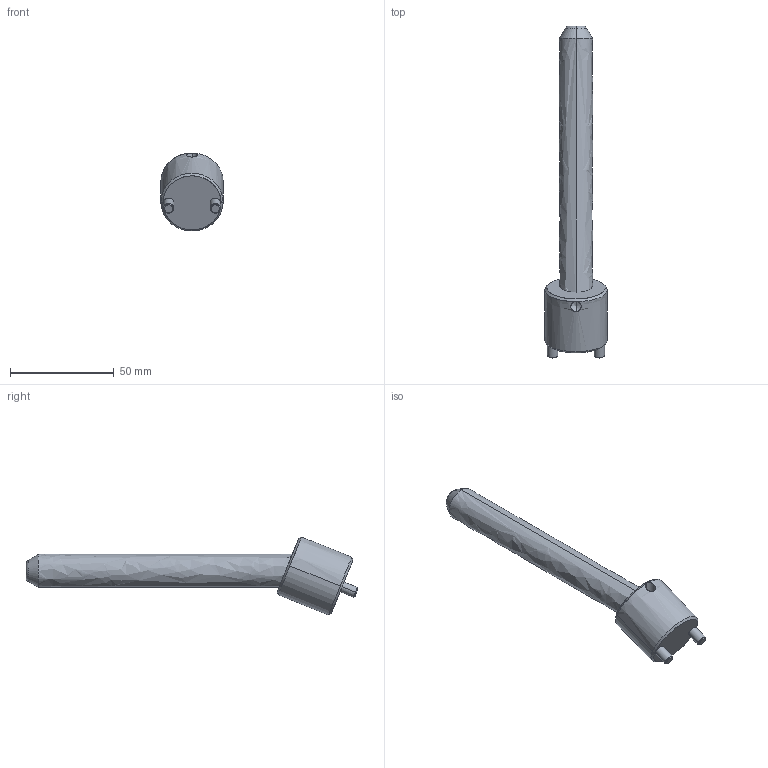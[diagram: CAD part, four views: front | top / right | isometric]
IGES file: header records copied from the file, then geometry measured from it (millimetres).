
Start section: START RECORD GO HERE.
Global section: file name: CI2216125.igs; native system: DASSAULT SYSTEMES CATIA V5 R20 - www.3ds.com; preprocessor: CATIA Version 5 Release 20 ; author: r.borello; organization: CFTORINO; date: 20190624.084834; units: millimetre
Bounding box: 30 x 159.79 x 37.53 mm (x, y, z)
Surface area: 13200.1 mm2 (no closed solid volume)
Topology: 0 solids, 0 shells, 39 faces, 168 edges, 166 vertices
Faces by surface type: revolution 32, plane 7
